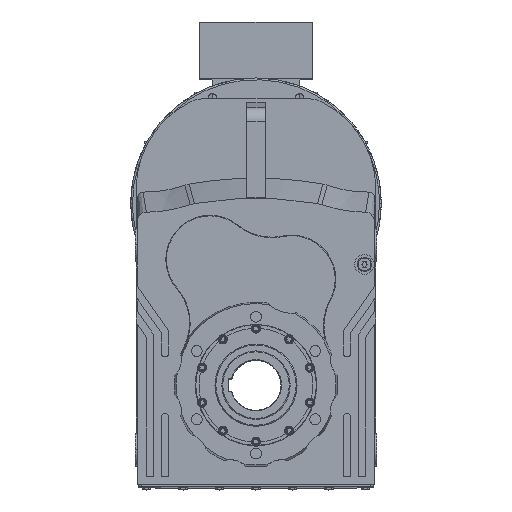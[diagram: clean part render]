
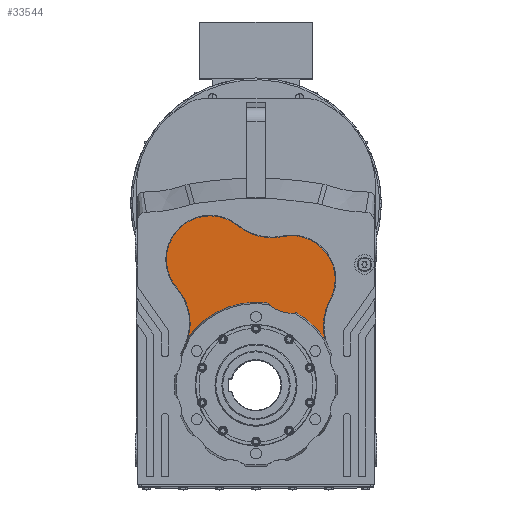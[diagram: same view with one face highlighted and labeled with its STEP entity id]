
A CAD part, top view. The second image highlights one B-rep face of the part: STEP entity #33544.
In plain terms, the highlighted planar face has unit normal (0, 0, 1).
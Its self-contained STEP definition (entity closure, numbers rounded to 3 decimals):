
#3622 = DIRECTION ( 'NONE',  ( 0., 0., -1. ) ) ;
#6190 = CARTESIAN_POINT ( 'NONE',  ( 78.006, 232.25, 347.5 ) ) ;
#7051 = CIRCLE ( 'NONE', #26091, 95.838 ) ;
#7827 = CIRCLE ( 'NONE', #15362, 117.162 ) ;
#8122 = CIRCLE ( 'NONE', #15448, 117.162 ) ;
#8303 = CIRCLE ( 'NONE', #15453, 117.162 ) ;
#8320 = CIRCLE ( 'NONE', #15412, 74.5 ) ;
#8336 = CIRCLE ( 'NONE', #15430, 181.937 ) ;
#8344 = CIRCLE ( 'NONE', #15455, 117.162 ) ;
#8365 = CIRCLE ( 'NONE', #15439, 95.838 ) ;
#8476 = CIRCLE ( 'NONE', #15497, 181.937 ) ;
#14270 = DIRECTION ( 'NONE',  ( 0., 0., 1. ) ) ;
#15362 = AXIS2_PLACEMENT_3D ( 'NONE', #16980, #16982, #16991 ) ;
#15412 = AXIS2_PLACEMENT_3D ( 'NONE', #6190, #14270, #71830 ) ;
#15430 = AXIS2_PLACEMENT_3D ( 'NONE', #16363, #16377, #16944 ) ;
#15439 = AXIS2_PLACEMENT_3D ( 'NONE', #17774, #17767, #17776 ) ;
#15448 = AXIS2_PLACEMENT_3D ( 'NONE', #16696, #16715, #16690 ) ;
#15453 = AXIS2_PLACEMENT_3D ( 'NONE', #29006, #72023, #72151 ) ;
#15455 = AXIS2_PLACEMENT_3D ( 'NONE', #63530, #3622, #28996 ) ;
#15497 = AXIS2_PLACEMENT_3D ( 'NONE', #17013, #17009, #17031 ) ;
#15958 = AXIS2_PLACEMENT_3D ( 'NONE', #53093, #53098, #53106 ) ;
#16363 = CARTESIAN_POINT ( 'NONE',  ( 0., 0., 347.5 ) ) ;
#16377 = DIRECTION ( 'NONE',  ( 0., 0., 1. ) ) ;
#16690 = DIRECTION ( 'NONE',  ( 1., 0., 0. ) ) ;
#16696 = CARTESIAN_POINT ( 'NONE',  ( 34.008, 440.656, 347.5 ) ) ;
#16715 = DIRECTION ( 'NONE',  ( 0., 0., -1. ) ) ;
#16944 = DIRECTION ( 'NONE',  ( -1., 0., 0. ) ) ;
#16980 = CARTESIAN_POINT ( 'NONE',  ( -261.692, 136.17, 347.5 ) ) ;
#16982 = DIRECTION ( 'NONE',  ( 0., 0., -1. ) ) ;
#16991 = DIRECTION ( 'NONE',  ( 1., 0., 0. ) ) ;
#17009 = DIRECTION ( 'NONE',  ( 0., 0., 1. ) ) ;
#17013 = CARTESIAN_POINT ( 'NONE',  ( 0., 0., 347.5 ) ) ;
#17031 = DIRECTION ( 'NONE',  ( -1., 0., 0. ) ) ;
#17767 = DIRECTION ( 'NONE',  ( 0., 0., 1. ) ) ;
#17774 = CARTESIAN_POINT ( 'NONE',  ( 78.006, 232.25, 347.5 ) ) ;
#17776 = DIRECTION ( 'NONE',  ( -1., 0., 0. ) ) ;
#22164 = EDGE_CURVE ( 'NONE', #35992, #35979, #7051, .T. ) ;
#23062 = EDGE_CURVE ( 'NONE', #35979, #36029, #7827, .T. ) ;
#23423 = EDGE_CURVE ( 'NONE', #39291, #39256, #8122, .T. ) ;
#23693 = EDGE_CURVE ( 'NONE', #39285, #39287, #8336, .T. ) ;
#23697 = EDGE_CURVE ( 'NONE', #39271, #39248, #8303, .T. ) ;
#23708 = EDGE_CURVE ( 'NONE', #36029, #39287, #8344, .T. ) ;
#23710 = EDGE_CURVE ( 'NONE', #39285, #39267, #8320, .T. ) ;
#23800 = EDGE_CURVE ( 'NONE', #39248, #39291, #8365, .T. ) ;
#23915 = EDGE_CURVE ( 'NONE', #39271, #39267, #8476, .T. ) ;
#26091 = AXIS2_PLACEMENT_3D ( 'NONE', #70039, #70090, #70170 ) ;
#26197 = EDGE_CURVE ( 'NONE', #39256, #35992, #52757, .T. ) ;
#28996 = DIRECTION ( 'NONE',  ( 1., 0., 0. ) ) ;
#29006 = CARTESIAN_POINT ( 'NONE',  ( 264.834, 129.954, 347.5 ) ) ;
#33544 = ADVANCED_FACE ( 'NONE', ( #77366 ), #39694, .T. ) ;
#35979 = VERTEX_POINT ( 'NONE', #40483 ) ;
#35992 = VERTEX_POINT ( 'NONE', #40489 ) ;
#36029 = VERTEX_POINT ( 'NONE', #40469 ) ;
#39248 = VERTEX_POINT ( 'NONE', #46015 ) ;
#39256 = VERTEX_POINT ( 'NONE', #45984 ) ;
#39267 = VERTEX_POINT ( 'NONE', #46045 ) ;
#39271 = VERTEX_POINT ( 'NONE', #46072 ) ;
#39285 = VERTEX_POINT ( 'NONE', #46033 ) ;
#39287 = VERTEX_POINT ( 'NONE', #46061 ) ;
#39291 = VERTEX_POINT ( 'NONE', #46060 ) ;
#39653 = DIRECTION ( 'NONE',  ( 0., 0., 1. ) ) ;
#39680 = DIRECTION ( 'NONE',  ( 1., 0., 0. ) ) ;
#39686 = CARTESIAN_POINT ( 'NONE',  ( 56.007, 336.453, 347.5 ) ) ;
#39694 = PLANE ( 'NONE',  #71167 ) ;
#40469 = CARTESIAN_POINT ( 'NONE',  ( -144.53, 136.17, 347.5 ) ) ;
#40483 = CARTESIAN_POINT ( 'NONE',  ( -173.183, 212.936, 347.5 ) ) ;
#40489 = CARTESIAN_POINT ( 'NONE',  ( -196.621, 275.731, 347.5 ) ) ;
#45984 = CARTESIAN_POINT ( 'NONE',  ( -40.135, 349.938, 347.5 ) ) ;
#46015 = CARTESIAN_POINT ( 'NONE',  ( 162.068, 186.223, 347.5 ) ) ;
#46033 = CARTESIAN_POINT ( 'NONE',  ( 24.646, 180.26, 347.5 ) ) ;
#46045 = CARTESIAN_POINT ( 'NONE',  ( 89.164, 158.59, 347.5 ) ) ;
#46060 = CARTESIAN_POINT ( 'NONE',  ( 58.209, 326.021, 347.5 ) ) ;
#46061 = CARTESIAN_POINT ( 'NONE',  ( -148.864, 104.597, 347.5 ) ) ;
#46072 = CARTESIAN_POINT ( 'NONE',  ( 151.292, 101.053, 347.5 ) ) ;
#52757 = CIRCLE ( 'NONE', #15958, 95.838 ) ;
#53093 = CARTESIAN_POINT ( 'NONE',  ( -100.783, 275.731, 347.5 ) ) ;
#53098 = DIRECTION ( 'NONE',  ( 0., 0., 1. ) ) ;
#53106 = DIRECTION ( 'NONE',  ( -1., 0., 0. ) ) ;
#58645 = EDGE_LOOP ( 'NONE', ( #73076, #73109, #73039, #72982, #73067, #73033, #73018, #73134, #73132, #73009 ) ) ;
#63530 = CARTESIAN_POINT ( 'NONE',  ( -261.692, 136.17, 347.5 ) ) ;
#70039 = CARTESIAN_POINT ( 'NONE',  ( -100.783, 275.731, 347.5 ) ) ;
#70090 = DIRECTION ( 'NONE',  ( 0., 0., 1. ) ) ;
#70170 = DIRECTION ( 'NONE',  ( -1., 0., 0. ) ) ;
#71167 = AXIS2_PLACEMENT_3D ( 'NONE', #39686, #39653, #39680 ) ;
#71830 = DIRECTION ( 'NONE',  ( -1., 0., 0. ) ) ;
#72023 = DIRECTION ( 'NONE',  ( 0., 0., -1. ) ) ;
#72151 = DIRECTION ( 'NONE',  ( 1., 0., 0. ) ) ;
#72982 = ORIENTED_EDGE ( 'NONE', *, *, #23710, .T. ) ;
#73009 = ORIENTED_EDGE ( 'NONE', *, *, #22164, .T. ) ;
#73018 = ORIENTED_EDGE ( 'NONE', *, *, #23800, .T. ) ;
#73033 = ORIENTED_EDGE ( 'NONE', *, *, #23697, .T. ) ;
#73039 = ORIENTED_EDGE ( 'NONE', *, *, #23693, .F. ) ;
#73067 = ORIENTED_EDGE ( 'NONE', *, *, #23915, .F. ) ;
#73076 = ORIENTED_EDGE ( 'NONE', *, *, #23062, .T. ) ;
#73109 = ORIENTED_EDGE ( 'NONE', *, *, #23708, .T. ) ;
#73132 = ORIENTED_EDGE ( 'NONE', *, *, #26197, .T. ) ;
#73134 = ORIENTED_EDGE ( 'NONE', *, *, #23423, .T. ) ;
#77366 = FACE_OUTER_BOUND ( 'NONE', #58645, .T. ) ;
